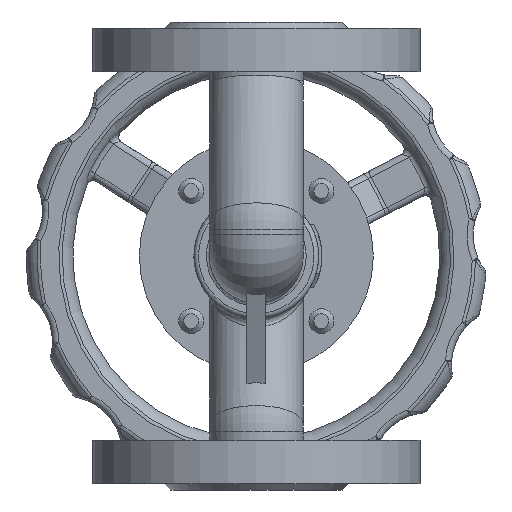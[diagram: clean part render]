
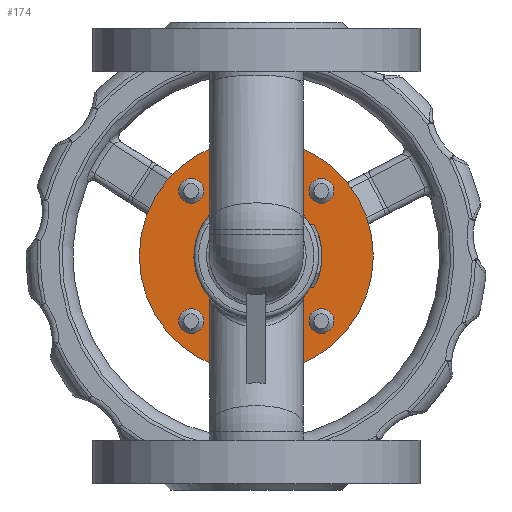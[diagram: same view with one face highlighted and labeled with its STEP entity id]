
A CAD part, front view. The second image highlights one B-rep face of the part: STEP entity #174.
In plain terms, the highlighted planar face has unit normal (0, -1, 0).
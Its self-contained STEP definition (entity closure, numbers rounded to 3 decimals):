
#174=ADVANCED_FACE('',(#8831,#8833,#8835,#8837,#8839,#8841),#8843,.T.);
#8831=FACE_BOUND('',#8832,.T.);
#8832=EDGE_LOOP('',(#18674));
#8833=FACE_BOUND('',#8834,.T.);
#8834=EDGE_LOOP('',(#18675));
#8835=FACE_BOUND('',#8836,.T.);
#8836=EDGE_LOOP('',(#18676));
#8837=FACE_BOUND('',#8838,.T.);
#8838=EDGE_LOOP('',(#18677));
#8839=FACE_BOUND('',#8840,.T.);
#8840=EDGE_LOOP('',(#18678));
#8841=FACE_BOUND('',#8842,.T.);
#8842=EDGE_LOOP('',(#18679));
#8843=PLANE('',#8844);
#8844=AXIS2_PLACEMENT_3D('',#8845,#8846,#8847);
#8845=CARTESIAN_POINT('',(0.,52.5,0.));
#8846=DIRECTION('',(0.,-1.,0.));
#8847=DIRECTION('',(0.,0.,1.));
#18674=ORIENTED_EDGE('',*,*,#23514,.F.);
#18675=ORIENTED_EDGE('',*,*,#23515,.T.);
#18676=ORIENTED_EDGE('',*,*,#23493,.T.);
#18677=ORIENTED_EDGE('',*,*,#23516,.T.);
#18678=ORIENTED_EDGE('',*,*,#23517,.T.);
#18679=ORIENTED_EDGE('',*,*,#23518,.T.);
#23493=EDGE_CURVE('',#25720,#25720,#25721,.T.);
#23514=EDGE_CURVE('',#25762,#25762,#25763,.T.);
#23515=EDGE_CURVE('',#25764,#25764,#25765,.T.);
#23516=EDGE_CURVE('',#25766,#25766,#25767,.T.);
#23517=EDGE_CURVE('',#25768,#25768,#25769,.T.);
#23518=EDGE_CURVE('',#25770,#25770,#25771,.T.);
#25720=VERTEX_POINT('',#29338);
#25721=CIRCLE('',#29339,4.);
#25762=VERTEX_POINT('',#29437);
#25763=CIRCLE('',#29438,37.5);
#25764=VERTEX_POINT('',#29442);
#25765=CIRCLE('',#29443,18.);
#25766=VERTEX_POINT('',#29447);
#25767=CIRCLE('',#29448,4.);
#25768=VERTEX_POINT('',#29452);
#25769=CIRCLE('',#29453,4.);
#25770=VERTEX_POINT('',#29457);
#25771=CIRCLE('',#29458,4.);
#29338=CARTESIAN_POINT('',(-20.86,52.5,16.86));
#29339=AXIS2_PLACEMENT_3D('',#29340,#29341,#29342);
#29340=CARTESIAN_POINT('',(-20.86,52.5,20.86));
#29341=DIRECTION('',(0.,1.,0.));
#29342=DIRECTION('',(0.,0.,-1.));
#29437=CARTESIAN_POINT('',(0.,52.5,37.5));
#29438=AXIS2_PLACEMENT_3D('',#29439,#29440,#29441);
#29439=CARTESIAN_POINT('',(0.,52.5,0.));
#29440=DIRECTION('',(0.,1.,0.));
#29441=DIRECTION('',(0.,0.,1.));
#29442=CARTESIAN_POINT('',(0.,52.5,18.));
#29443=AXIS2_PLACEMENT_3D('',#29444,#29445,#29446);
#29444=CARTESIAN_POINT('',(0.,52.5,0.));
#29445=DIRECTION('',(0.,1.,0.));
#29446=DIRECTION('',(0.,0.,1.));
#29447=CARTESIAN_POINT('',(-16.86,52.5,-20.86));
#29448=AXIS2_PLACEMENT_3D('',#29449,#29450,#29451);
#29449=CARTESIAN_POINT('',(-20.86,52.5,-20.86));
#29450=DIRECTION('',(0.,1.,0.));
#29451=DIRECTION('',(1.,0.,0.));
#29452=CARTESIAN_POINT('',(20.86,52.5,-16.86));
#29453=AXIS2_PLACEMENT_3D('',#29454,#29455,#29456);
#29454=CARTESIAN_POINT('',(20.86,52.5,-20.86));
#29455=DIRECTION('',(0.,1.,0.));
#29456=DIRECTION('',(0.,0.,1.));
#29457=CARTESIAN_POINT('',(16.86,52.5,20.86));
#29458=AXIS2_PLACEMENT_3D('',#29459,#29460,#29461);
#29459=CARTESIAN_POINT('',(20.86,52.5,20.86));
#29460=DIRECTION('',(0.,1.,0.));
#29461=DIRECTION('',(-1.,0.,0.));
